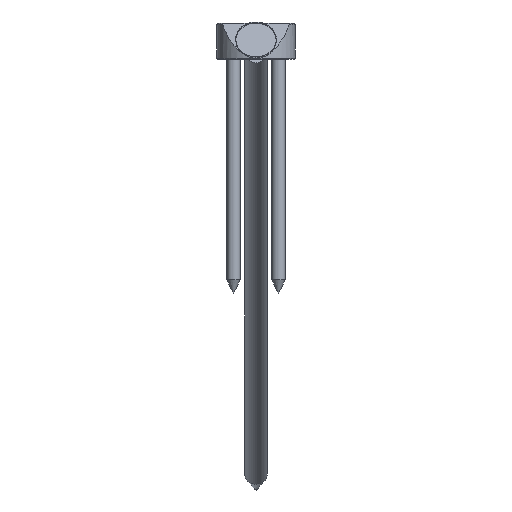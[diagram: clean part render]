
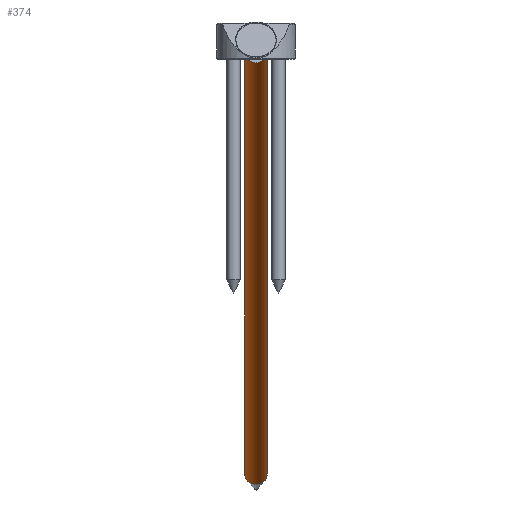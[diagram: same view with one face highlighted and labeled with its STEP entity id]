
A CAD part, front view. The second image highlights one B-rep face of the part: STEP entity #374.
In plain terms, the highlighted cylindrical face has radius 5 mm (diameter 10 mm), a full revolution.
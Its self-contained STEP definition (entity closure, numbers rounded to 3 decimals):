
#59=CYLINDRICAL_SURFACE('',#464,5.);
#132=ORIENTED_EDGE('',*,*,#169,.T.);
#133=ORIENTED_EDGE('',*,*,#168,.F.);
#168=EDGE_CURVE('',#199,#199,#226,.T.);
#169=EDGE_CURVE('',#200,#200,#227,.T.);
#199=VERTEX_POINT('',#700);
#200=VERTEX_POINT('',#703);
#226=CIRCLE('',#463,5.);
#227=CIRCLE('',#465,5.);
#279=EDGE_LOOP('',(#132));
#280=EDGE_LOOP('',(#133));
#334=FACE_BOUND('',#279,.T.);
#335=FACE_BOUND('',#280,.T.);
#374=ADVANCED_FACE('',(#334,#335),#59,.T.);
#463=AXIS2_PLACEMENT_3D('',#699,#584,#585);
#464=AXIS2_PLACEMENT_3D('',#701,#586,#587);
#465=AXIS2_PLACEMENT_3D('',#702,#588,#589);
#584=DIRECTION('',(0.,1.,0.));
#585=DIRECTION('',(0.,0.,1.));
#586=DIRECTION('',(0.,1.,0.));
#587=DIRECTION('',(0.,0.,1.));
#588=DIRECTION('',(0.,1.,0.));
#589=DIRECTION('',(0.,0.,1.));
#699=CARTESIAN_POINT('',(0.,42.,0.));
#700=CARTESIAN_POINT('',(0.,42.,5.));
#701=CARTESIAN_POINT('',(0.,54.,0.));
#702=CARTESIAN_POINT('',(0.,-333.,0.));
#703=CARTESIAN_POINT('',(0.,-333.,5.));
